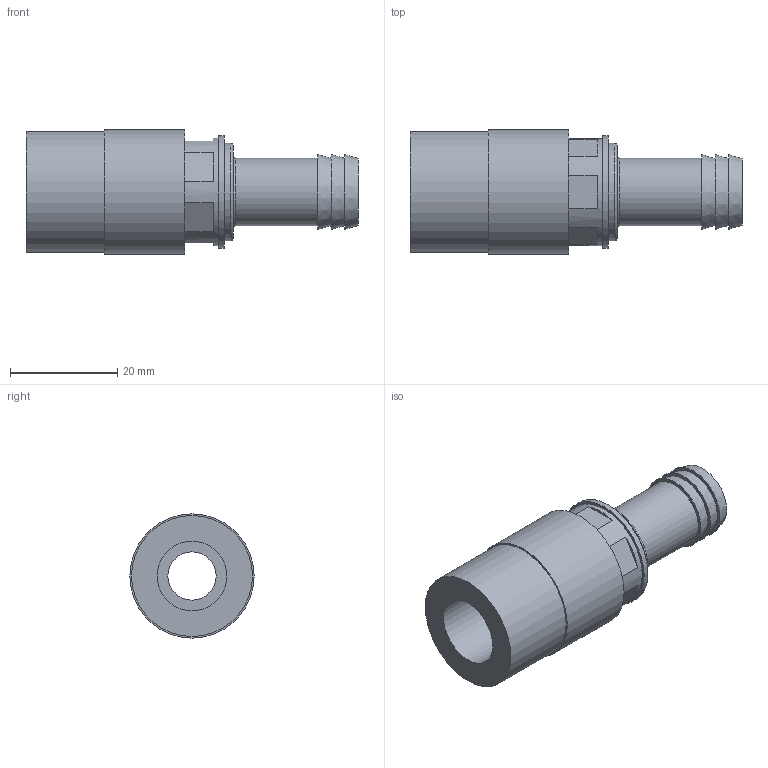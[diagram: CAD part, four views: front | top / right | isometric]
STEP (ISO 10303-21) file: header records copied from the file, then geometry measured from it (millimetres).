
FILE_DESCRIPTION(/* description */ ('STEP AP214'),/* implementation_level */ '2;1');
FILE_NAME(/* name */ 'SK113',/* time_stamp */ '2024-12-19T09:35:22+01:00',/* author */ ('License CC BY-ND 4.0'),/* organization */ ('CADENAS'),/* preprocessor_version */ 'ST-DEVELOPER v19.3',/* originating_system */ 'PARTsolutions',/* authorisation */ ' ');
FILE_SCHEMA (('AUTOMOTIVE_DESIGN {1 0 10303 214 3 1 1}'));
Length unit declared in the file: millimetre
Products named in the file (1): SK113
Bounding box: 62 x 23.2 x 23.2 mm (x, y, z)
Volume: 12264.7 mm3; surface area: 6583.9 mm2
Topology: 1 solids, 1 shells, 36 faces, 73 edges, 48 vertices
Faces by surface type: plane 23, cylinder 8, cone 3, torus 2
Full cylindrical faces by diameter (mm): 9 x1, 12.6 x1, 13 x1, 18.2 x1, 20 x1, 21 x1, 22.6 x1, 23.2 x1
Entity records: 916 total; most frequent: DIRECTION 168, CARTESIAN_POINT 143, ORIENTED_EDGE 118, AXIS2_PLACEMENT_3D 72, EDGE_LOOP 60, FACE_BOUND 60, EDGE_CURVE 59, VERTEX_POINT 47
